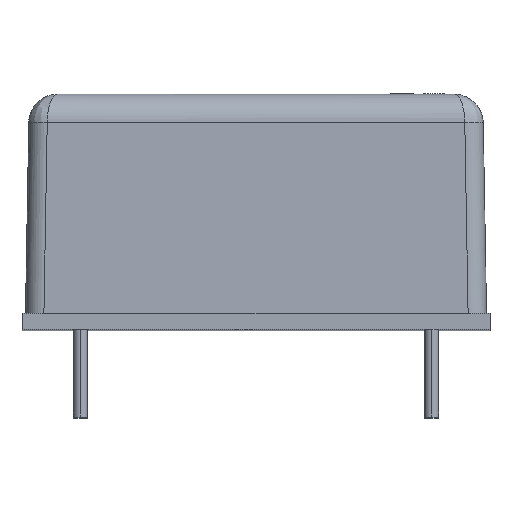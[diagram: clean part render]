
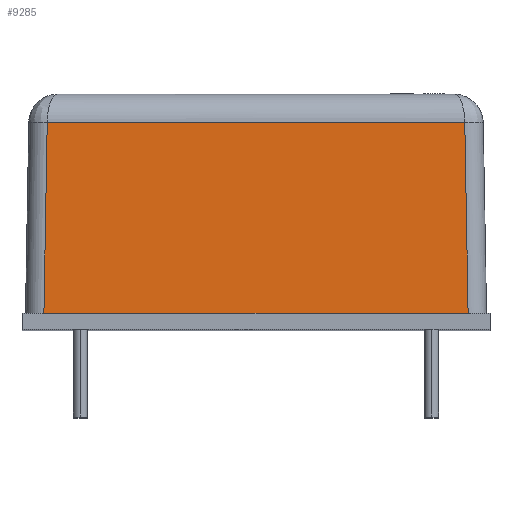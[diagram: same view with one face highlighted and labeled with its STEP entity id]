
A CAD part, top view. The second image highlights one B-rep face of the part: STEP entity #9285.
In plain terms, the highlighted planar face has unit normal (0, 0.018, 1).
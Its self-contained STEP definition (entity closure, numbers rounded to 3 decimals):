
#42 = VERTEX_POINT ( 'NONE', #11434 ) ;
#725 = EDGE_CURVE ( 'NONE', #2781, #14093, #6848, .T. ) ;
#840 = PLANE ( 'NONE',  #11542 ) ;
#1449 = CARTESIAN_POINT ( 'NONE',  ( -9.2, -0.014, 15.8 ) ) ;
#2079 = CARTESIAN_POINT ( 'NONE',  ( -10., 0., 15.8 ) ) ;
#2139 = EDGE_CURVE ( 'NONE', #14093, #42, #8479, .T. ) ;
#2671 = LINE ( 'NONE', #1449, #9895 ) ;
#2781 = VERTEX_POINT ( 'NONE', #12623 ) ;
#2787 = DIRECTION ( 'NONE',  ( -0.017, 1., -0.017 ) ) ;
#2827 = DIRECTION ( 'NONE',  ( 0., 0.017, 1. ) ) ;
#3064 = LINE ( 'NONE', #6354, #9212 ) ;
#4342 = ORIENTED_EDGE ( 'NONE', *, *, #11679, .T. ) ;
#4416 = VERTEX_POINT ( 'NONE', #10406 ) ;
#4628 = DIRECTION ( 'NONE',  ( 1., 0., 0. ) ) ;
#6099 = EDGE_LOOP ( 'NONE', ( #14552, #4342, #10344, #12104 ) ) ;
#6113 = VECTOR ( 'NONE', #2787, 1000. ) ;
#6354 = CARTESIAN_POINT ( 'NONE',  ( -9.034, 8.272, 15.656 ) ) ;
#6515 = DIRECTION ( 'NONE',  ( 1., 0., 0. ) ) ;
#6690 = VECTOR ( 'NONE', #4628, 1000. ) ;
#6848 = LINE ( 'NONE', #2079, #6690 ) ;
#7250 = EDGE_CURVE ( 'NONE', #4416, #2781, #2671, .T. ) ;
#7288 = DIRECTION ( 'NONE',  ( -0.017, -1., 0.017 ) ) ;
#8479 = LINE ( 'NONE', #13126, #6113 ) ;
#9212 = VECTOR ( 'NONE', #14559, 1000. ) ;
#9285 = ADVANCED_FACE ( 'NONE', ( #14163 ), #840, .T. ) ;
#9895 = VECTOR ( 'NONE', #7288, 1000. ) ;
#10093 = CARTESIAN_POINT ( 'NONE',  ( -10., 0., 15.8 ) ) ;
#10344 = ORIENTED_EDGE ( 'NONE', *, *, #7250, .T. ) ;
#10406 = CARTESIAN_POINT ( 'NONE',  ( -9.056, 8.272, 15.656 ) ) ;
#11434 = CARTESIAN_POINT ( 'NONE',  ( 9.056, 8.272, 15.656 ) ) ;
#11542 = AXIS2_PLACEMENT_3D ( 'NONE', #10093, #2827, #6515 ) ;
#11679 = EDGE_CURVE ( 'NONE', #42, #4416, #3064, .T. ) ;
#12104 = ORIENTED_EDGE ( 'NONE', *, *, #725, .T. ) ;
#12623 = CARTESIAN_POINT ( 'NONE',  ( -9.2, 0., 15.8 ) ) ;
#13126 = CARTESIAN_POINT ( 'NONE',  ( 9.194, 0.335, 15.794 ) ) ;
#13186 = CARTESIAN_POINT ( 'NONE',  ( 9.2, 0., 15.8 ) ) ;
#14093 = VERTEX_POINT ( 'NONE', #13186 ) ;
#14163 = FACE_OUTER_BOUND ( 'NONE', #6099, .T. ) ;
#14552 = ORIENTED_EDGE ( 'NONE', *, *, #2139, .T. ) ;
#14559 = DIRECTION ( 'NONE',  ( -1., 0., 0. ) ) ;
